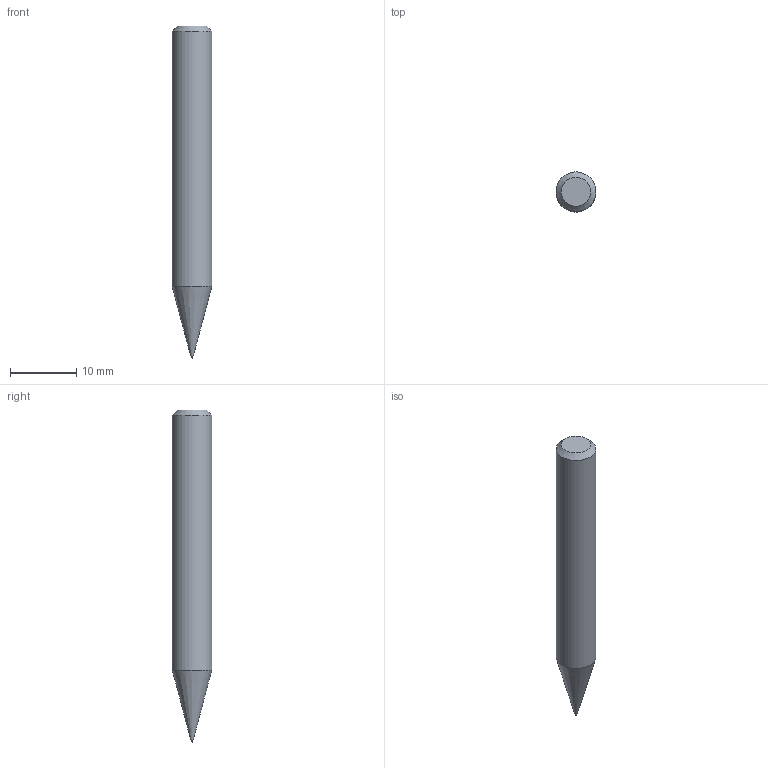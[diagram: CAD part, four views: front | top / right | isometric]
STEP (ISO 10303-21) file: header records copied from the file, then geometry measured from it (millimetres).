
FILE_DESCRIPTION((''),'2;1');
FILE_NAME('C:\Users\nsx150\AppData\Local\Temp\Mastercam 2021\8KJEN3TMUH\TEMP.step','2021-05-21T11:23:34',(''),(''),'STEP Write','Mastercam 2021 ... CNC Software, Inc.','');
FILE_SCHEMA(('AUTOMOTIVE_DESIGN'));
Length unit declared in the file: millimetre
Products named in the file (1): None
Bounding box: 6 x 6 x 50 mm (x, y, z)
Volume: 1207.9 mm3; surface area: 866.5 mm2
Topology: 2 solids, 2 shells, 8 faces, 12 edges, 7 vertices
Faces by surface type: plane 3, cylinder 2, cone 2, sphere 1
Full cylindrical faces by diameter (mm): 0.3 x1, 6 x1
Entity records: 190 total; most frequent: DIRECTION 32, CARTESIAN_POINT 22, AXIS2_PLACEMENT_3D 16, ORIENTED_EDGE 12, EDGE_LOOP 12, STYLED_ITEM 11, ADVANCED_FACE 8, VERTEX_POINT 6
